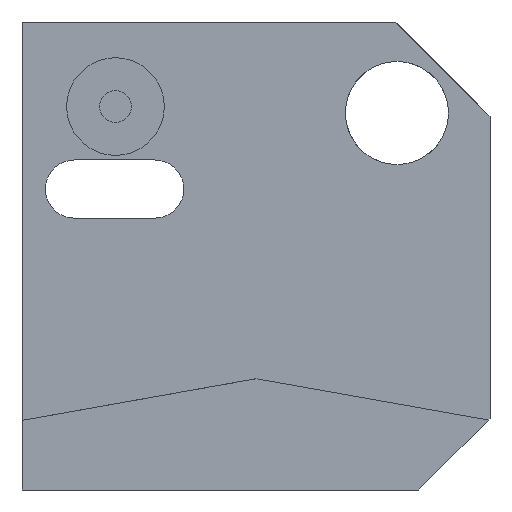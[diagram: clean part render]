
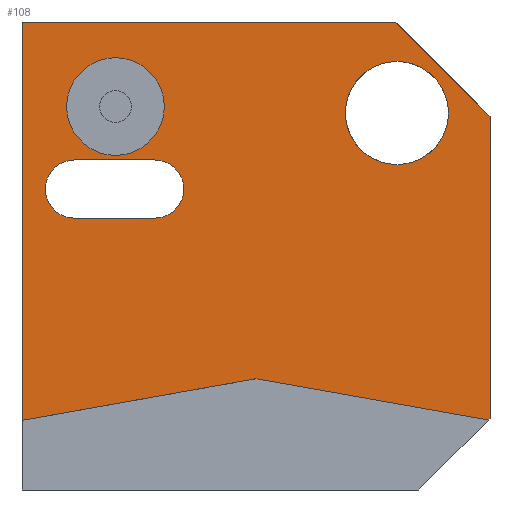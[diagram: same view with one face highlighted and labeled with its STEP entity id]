
A CAD part, left-side view. The second image highlights one B-rep face of the part: STEP entity #108.
In plain terms, the highlighted planar face has unit normal (-1, 0, 0).
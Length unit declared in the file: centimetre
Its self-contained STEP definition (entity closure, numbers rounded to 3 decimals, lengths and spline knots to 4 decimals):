
#2 = CARTESIAN_POINT ( 'NONE',  ( 0., 198.7982, 915.7231 ) ) ;
#5 = LINE ( 'NONE', #956, #362 ) ;
#21 = CARTESIAN_POINT ( 'NONE',  ( 0., 800.2478, 819.2747 ) ) ;
#22 = EDGE_CURVE ( 'NONE', #1013, #955, #182, .T. ) ;
#32 = EDGE_CURVE ( 'NONE', #449, #463, #336, .T. ) ;
#40 = CIRCLE ( 'NONE', #980, 110.1573 ) ;
#45 = ORIENTED_EDGE ( 'NONE', *, *, #32, .T. ) ;
#52 = EDGE_CURVE ( 'NONE', #363, #789, #806, .T. ) ;
#61 = AXIS2_PLACEMENT_3D ( 'NONE', #458, #549, #950 ) ;
#63 = LINE ( 'NONE', #381, #166 ) ;
#78 = EDGE_LOOP ( 'NONE', ( #791, #755 ) ) ;
#102 = DIRECTION ( 'NONE',  ( -1., 0., 0. ) ) ;
#107 = DIRECTION ( 'NONE',  ( 0., 0.707, 0.707 ) ) ;
#108 = ADVANCED_FACE ( 'NONE', ( #268, #340, #964, #566 ), #183, .F. ) ;
#118 = CARTESIAN_POINT ( 'NONE',  ( 0., 800.2478, 923.6831 ) ) ;
#120 = EDGE_CURVE ( 'NONE', #216, #706, #737, .T. ) ;
#137 = ORIENTED_EDGE ( 'NONE', *, *, #142, .F. ) ;
#142 = EDGE_CURVE ( 'NONE', #955, #1013, #40, .T. ) ;
#143 = ORIENTED_EDGE ( 'NONE', *, *, #22, .F. ) ;
#147 = AXIS2_PLACEMENT_3D ( 'NONE', #480, #798, #561 ) ;
#156 = ORIENTED_EDGE ( 'NONE', *, *, #495, .F. ) ;
#162 = VERTEX_POINT ( 'NONE', #781 ) ;
#166 = VECTOR ( 'NONE', #695, 100. ) ;
#177 = CARTESIAN_POINT ( 'NONE',  ( 0., 1000., 148.8318 ) ) ;
#182 = CIRCLE ( 'NONE', #623, 110.1573 ) ;
#183 = PLANE ( 'NONE',  #253 ) ;
#199 = ORIENTED_EDGE ( 'NONE', *, *, #707, .F. ) ;
#200 = DIRECTION ( 'NONE',  ( 0., 0., -1. ) ) ;
#216 = VERTEX_POINT ( 'NONE', #793 ) ;
#222 = DIRECTION ( 'NONE',  ( -1., 0., 0. ) ) ;
#253 = AXIS2_PLACEMENT_3D ( 'NONE', #888, #656, #974 ) ;
#261 = CARTESIAN_POINT ( 'NONE',  ( 0., 1000., 1000. ) ) ;
#264 = DIRECTION ( 'NONE',  ( 0., 0., 1. ) ) ;
#266 = DIRECTION ( 'NONE',  ( 0., 0.985, 0.175 ) ) ;
#268 = FACE_BOUND ( 'NONE', #404, .T. ) ;
#275 = EDGE_CURVE ( 'NONE', #317, #789, #63, .T. ) ;
#278 = CARTESIAN_POINT ( 'NONE',  ( 0., 800.2478, 714.8663 ) ) ;
#282 = VECTOR ( 'NONE', #266, 100. ) ;
#285 = CARTESIAN_POINT ( 'NONE',  ( 0., 198.7982, 695.4086 ) ) ;
#313 = DIRECTION ( 'NONE',  ( 0., -0.707, 0.707 ) ) ;
#317 = VERTEX_POINT ( 'NONE', #437 ) ;
#322 = VERTEX_POINT ( 'NONE', #278 ) ;
#336 = LINE ( 'NONE', #418, #540 ) ;
#340 = FACE_BOUND ( 'NONE', #78, .T. ) ;
#343 = CARTESIAN_POINT ( 'NONE',  ( 0., 198.7982, 805.5659 ) ) ;
#362 = VECTOR ( 'NONE', #878, 100. ) ;
#363 = VERTEX_POINT ( 'NONE', #761 ) ;
#365 = ORIENTED_EDGE ( 'NONE', *, *, #433, .F. ) ;
#368 = LINE ( 'NONE', #903, #396 ) ;
#381 = CARTESIAN_POINT ( 'NONE',  ( 0., 1000., 148.8318 ) ) ;
#386 = VERTEX_POINT ( 'NONE', #984 ) ;
#392 = EDGE_CURVE ( 'NONE', #449, #700, #368, .T. ) ;
#396 = VECTOR ( 'NONE', #918, 100. ) ;
#397 = ORIENTED_EDGE ( 'NONE', *, *, #275, .F. ) ;
#399 = CIRCLE ( 'NONE', #61, 62.1868 ) ;
#404 = EDGE_LOOP ( 'NONE', ( #534, #365, #550, #156 ) ) ;
#418 = CARTESIAN_POINT ( 'NONE',  ( 0., 201.0433, 1000. ) ) ;
#422 = DIRECTION ( 'NONE',  ( 0., 0., -1. ) ) ;
#431 = AXIS2_PLACEMENT_3D ( 'NONE', #21, #102, #733 ) ;
#433 = EDGE_CURVE ( 'NONE', #706, #162, #1012, .T. ) ;
#437 = CARTESIAN_POINT ( 'NONE',  ( 0., 500., 237.6925 ) ) ;
#449 = VERTEX_POINT ( 'NONE', #474 ) ;
#458 = CARTESIAN_POINT ( 'NONE',  ( 0., 887.7325, 643.0205 ) ) ;
#463 = VERTEX_POINT ( 'NONE', #872 ) ;
#474 = CARTESIAN_POINT ( 'NONE',  ( 0., 0., 798.9567 ) ) ;
#475 = EDGE_LOOP ( 'NONE', ( #137, #143 ) ) ;
#480 = CARTESIAN_POINT ( 'NONE',  ( 0., 800.2478, 819.2747 ) ) ;
#482 = LINE ( 'NONE', #886, #813 ) ;
#487 = EDGE_LOOP ( 'NONE', ( #751, #397, #963, #691, #1030, #45, #199 ) ) ;
#495 = EDGE_CURVE ( 'NONE', #799, #216, #399, .T. ) ;
#511 = CARTESIAN_POINT ( 'NONE',  ( 0., 716.4745, 643.0205 ) ) ;
#534 = ORIENTED_EDGE ( 'NONE', *, *, #651, .F. ) ;
#540 = VECTOR ( 'NONE', #107, 100. ) ;
#542 = CIRCLE ( 'NONE', #147, 104.4084 ) ;
#549 = DIRECTION ( 'NONE',  ( -1., 0., 0. ) ) ;
#550 = ORIENTED_EDGE ( 'NONE', *, *, #120, .F. ) ;
#559 = AXIS2_PLACEMENT_3D ( 'NONE', #511, #989, #200 ) ;
#561 = DIRECTION ( 'NONE',  ( 0., 0., 1. ) ) ;
#566 = FACE_OUTER_BOUND ( 'NONE', #487, .T. ) ;
#573 = DIRECTION ( 'NONE',  ( 0., -1., 0. ) ) ;
#580 = CARTESIAN_POINT ( 'NONE',  ( 0., 716.4745, 580.8337 ) ) ;
#623 = AXIS2_PLACEMENT_3D ( 'NONE', #343, #734, #264 ) ;
#624 = DIRECTION ( 'NONE',  ( 0., 0., 1. ) ) ;
#645 = CARTESIAN_POINT ( 'NONE',  ( 0., 0., 152.9568 ) ) ;
#647 = CARTESIAN_POINT ( 'NONE',  ( 0., 0., 152.9568 ) ) ;
#648 = CARTESIAN_POINT ( 'NONE',  ( 0., 500., 237.6925 ) ) ;
#651 = EDGE_CURVE ( 'NONE', #162, #799, #5, .T. ) ;
#656 = DIRECTION ( 'NONE',  ( 1., 0., 0. ) ) ;
#661 = EDGE_CURVE ( 'NONE', #322, #1004, #542, .T. ) ;
#676 = EDGE_CURVE ( 'NONE', #386, #317, #804, .T. ) ;
#691 = ORIENTED_EDGE ( 'NONE', *, *, #947, .T. ) ;
#692 = EDGE_CURVE ( 'NONE', #1004, #322, #967, .T. ) ;
#695 = DIRECTION ( 'NONE',  ( 0., 0.985, -0.175 ) ) ;
#700 = VERTEX_POINT ( 'NONE', #645 ) ;
#706 = VERTEX_POINT ( 'NONE', #899 ) ;
#707 = EDGE_CURVE ( 'NONE', #363, #463, #482, .T. ) ;
#726 = CARTESIAN_POINT ( 'NONE',  ( 0., 887.7325, 705.2073 ) ) ;
#733 = DIRECTION ( 'NONE',  ( 0., 0., 1. ) ) ;
#734 = DIRECTION ( 'NONE',  ( -1., 0., 0. ) ) ;
#737 = LINE ( 'NONE', #580, #942 ) ;
#751 = ORIENTED_EDGE ( 'NONE', *, *, #52, .T. ) ;
#755 = ORIENTED_EDGE ( 'NONE', *, *, #661, .F. ) ;
#761 = CARTESIAN_POINT ( 'NONE',  ( 0., 1000., 1000. ) ) ;
#781 = CARTESIAN_POINT ( 'NONE',  ( 0., 716.4745, 705.2073 ) ) ;
#789 = VERTEX_POINT ( 'NONE', #177 ) ;
#791 = ORIENTED_EDGE ( 'NONE', *, *, #692, .F. ) ;
#793 = CARTESIAN_POINT ( 'NONE',  ( 0., 887.7325, 580.8337 ) ) ;
#798 = DIRECTION ( 'NONE',  ( -1., 0., 0. ) ) ;
#799 = VERTEX_POINT ( 'NONE', #726 ) ;
#804 = LINE ( 'NONE', #648, #282 ) ;
#806 = LINE ( 'NONE', #261, #992 ) ;
#813 = VECTOR ( 'NONE', #573, 100. ) ;
#872 = CARTESIAN_POINT ( 'NONE',  ( 0., 201.0433, 1000. ) ) ;
#874 = CARTESIAN_POINT ( 'NONE',  ( 0., 198.7982, 805.5659 ) ) ;
#878 = DIRECTION ( 'NONE',  ( 0., 1., 0. ) ) ;
#886 = CARTESIAN_POINT ( 'NONE',  ( 0., 1000., 1000. ) ) ;
#888 = CARTESIAN_POINT ( 'NONE',  ( 0., 1000., 1000. ) ) ;
#899 = CARTESIAN_POINT ( 'NONE',  ( 0., 716.4745, 580.8337 ) ) ;
#900 = DIRECTION ( 'NONE',  ( 0., -1., 0. ) ) ;
#903 = CARTESIAN_POINT ( 'NONE',  ( 0., 0., 1000. ) ) ;
#918 = DIRECTION ( 'NONE',  ( 0., 0., -1. ) ) ;
#942 = VECTOR ( 'NONE', #900, 100. ) ;
#947 = EDGE_CURVE ( 'NONE', #386, #700, #1027, .T. ) ;
#950 = DIRECTION ( 'NONE',  ( 0., 0., -1. ) ) ;
#955 = VERTEX_POINT ( 'NONE', #2 ) ;
#956 = CARTESIAN_POINT ( 'NONE',  ( 0., 887.7325, 705.2073 ) ) ;
#963 = ORIENTED_EDGE ( 'NONE', *, *, #676, .F. ) ;
#964 = FACE_BOUND ( 'NONE', #475, .T. ) ;
#967 = CIRCLE ( 'NONE', #431, 104.4084 ) ;
#974 = DIRECTION ( 'NONE',  ( 0., 0., -1. ) ) ;
#980 = AXIS2_PLACEMENT_3D ( 'NONE', #874, #222, #624 ) ;
#984 = CARTESIAN_POINT ( 'NONE',  ( 0., 3.5025, 149.4543 ) ) ;
#989 = DIRECTION ( 'NONE',  ( -1., 0., 0. ) ) ;
#992 = VECTOR ( 'NONE', #422, 100. ) ;
#1004 = VERTEX_POINT ( 'NONE', #118 ) ;
#1012 = CIRCLE ( 'NONE', #559, 62.1868 ) ;
#1013 = VERTEX_POINT ( 'NONE', #285 ) ;
#1027 = LINE ( 'NONE', #647, #1036 ) ;
#1030 = ORIENTED_EDGE ( 'NONE', *, *, #392, .F. ) ;
#1036 = VECTOR ( 'NONE', #313, 100. ) ;
